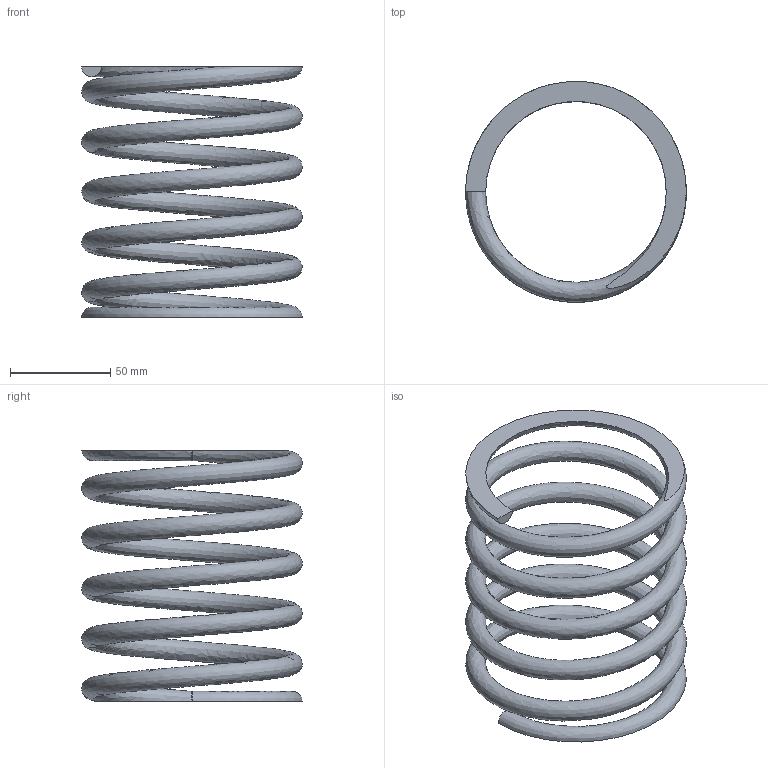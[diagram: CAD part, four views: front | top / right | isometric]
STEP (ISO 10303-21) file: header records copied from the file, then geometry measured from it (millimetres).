
FILE_DESCRIPTION(('STEP AP214'),'1');
FILE_NAME('coilspring(mm).step','2018-08-30T16:21:37',(' '),(' '),'Spatial InterOp 3D',' ',' ');
FILE_SCHEMA(('automotive_design'));
Length unit declared in the file: metre
Products named in the file (2): 1; 2
Bounding box: 110 x 109.99 x 125 mm (x, y, z)
Volume: 134090.1 mm3; surface area: 57237.3 mm2
Topology: 1 solids, 1 shells, 8 faces, 23 edges, 21 vertices
Faces by surface type: plane 4, bspline 4
Entity records: 14918 total; most frequent: CARTESIAN_POINT 14786, DIRECTION 18, ORIENTED_EDGE 14, AXIS2_PLACEMENT_3D 8, B_SPLINE_CURVE_WITH_KNOTS 7, EDGE_CURVE 7, FACE_OUTER_BOUND 6, EDGE_LOOP 6
